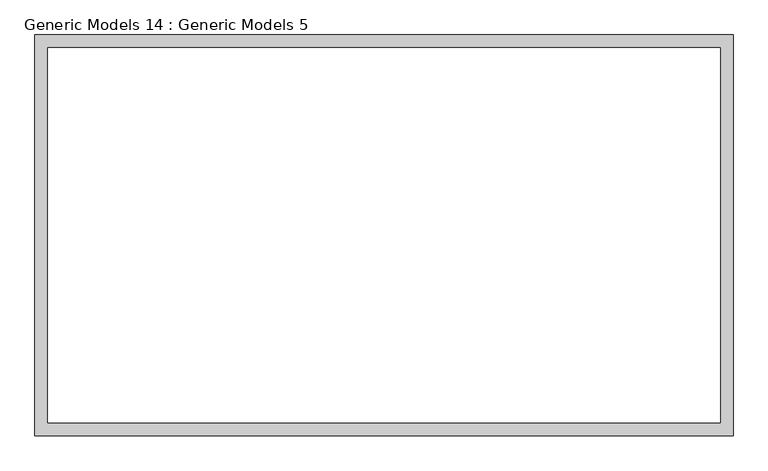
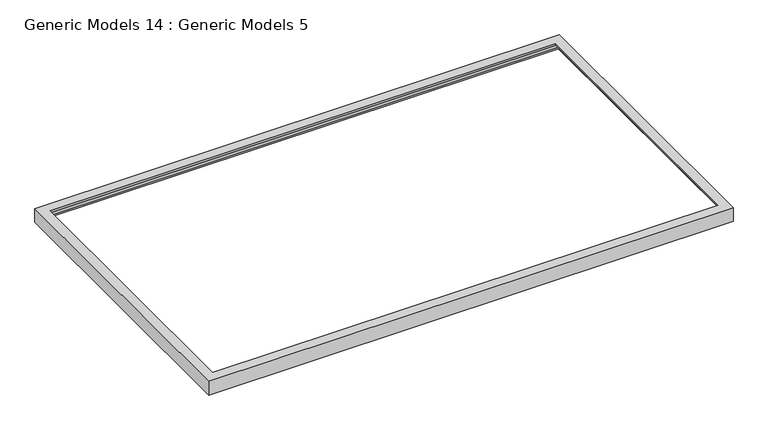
"""IFC4 building model written with IfcOpenShell, lengths in millimetres: proxy geometry, Generic Models 14 : Generic Models 5."""

import ifcopenshell
import ifcopenshell.guid

model = None  # the IFC model being written
_history = None  # IfcOwnerHistory: only IFC2X3 demands one
_inside = {}  # id of a spatial element -> (the spatial element, [elements in it])
_under = {}  # id of a project, library or spatial element -> (it, [spatial elements below it])
_declared = {}  # id of a project -> (the project, [libraries it declares])
_typed = {}  # id of a type object -> (the type object, [elements of that type])
_made_of = {}  # id of a material, layer set ... -> (it, [elements and type objects made of it])


def new_model(schema):
    """Start an empty IFC model of exactly this schema.

    Asked for "IFC4X3", IfcOpenShell would pick the latest addendum, in which some entities
    have other attributes; the version numbers below select the first issue.
    IFC2X3 requires an IfcOwnerHistory on every rooted entity: one is made here for all.
    """
    global model, _history
    if schema == "IFC4X3":
        model = ifcopenshell.file(schema_version=(4, 3, 0, 0))
    else:
        model = ifcopenshell.file(schema=schema)
    _inside.clear()
    _under.clear()
    _declared.clear()
    _typed.clear()
    _made_of.clear()
    _history = None
    if model.schema == "IFC2X3":
        org = make("IfcOrganization", Name="unknown")
        user = make(
            "IfcPersonAndOrganization",
            ThePerson=make("IfcPerson", FamilyName="unknown"),
            TheOrganization=org,
        )
        app = make(
            "IfcApplication",
            ApplicationDeveloper=org,
            Version="unknown",
            ApplicationFullName="unknown",
            ApplicationIdentifier="unknown",
        )
        _history = make(
            "IfcOwnerHistory",
            OwningUser=user,
            OwningApplication=app,
            ChangeAction="ADDED",
            CreationDate=0,
        )
    return model


def make(cls, **values):
    """One entity of the class cls with the attributes given. An attribute that is None is left unset."""
    return model.create_entity(
        cls, **{name: value for name, value in values.items() if value is not None}
    )


def rooted(cls, **values):
    """An entity with a GlobalId (a new one), such as an element, a storey or a relation."""
    return make(cls, GlobalId=ifcopenshell.guid.new(), OwnerHistory=_history, **values)


def si_unit(unit_type, name, prefix=None):
    """IfcSIUnit, for example si_unit("LENGTHUNIT", "METRE", prefix="MILLI")."""
    return make("IfcSIUnit", UnitType=unit_type, Prefix=prefix, Name=name)


def assignment(units):
    """IfcUnitAssignment: the units of a project."""
    return None if units is None else make("IfcUnitAssignment", Units=units)


def point(xyz):
    """IfcCartesianPoint."""
    return None if xyz is None else make("IfcCartesianPoint", Coordinates=xyz)


def direction(xyz):
    """IfcDirection."""
    return None if xyz is None else make("IfcDirection", DirectionRatios=xyz)


def frame(location, z_axis=None, x_axis=None):
    """IfcAxis2Placement3D, a coordinate frame: its origin and axes. An axis left out is left unset."""
    return make(
        "IfcAxis2Placement3D",
        Location=point(location),
        Axis=direction(z_axis),
        RefDirection=direction(x_axis),
    )


def origin():
    """The frame at (0, 0, 0) with its axes left unset."""
    return frame((0.0, 0.0, 0.0))


def place(relative_to, where):
    """IfcLocalPlacement: puts the frame where relative to a parent placement (None: the world)."""
    return make(
        "IfcLocalPlacement", PlacementRelTo=relative_to, RelativePlacement=where
    )


def context(
    kind, dimensions, precision=None, world=None, true_north=None, identifier=None
):
    """IfcGeometricRepresentationContext, for example the 3D "Model" context."""
    return make(
        "IfcGeometricRepresentationContext",
        ContextIdentifier=identifier,
        ContextType=kind,
        CoordinateSpaceDimension=dimensions,
        Precision=precision,
        WorldCoordinateSystem=world,
        TrueNorth=true_north,
    )


def project(units=None, contexts=None):
    """IfcProject with its units and contexts."""
    return rooted(
        "IfcProject",
        Name="project",
        RepresentationContexts=contexts,
        UnitsInContext=assignment(units),
    )


def spatial(cls, under=None, at=None, **own):
    """A site, building, storey or space (cls), placed at a placement, below another one or the project."""
    s = rooted(cls, ObjectPlacement=at, **own)
    if under is not None:
        _under.setdefault(under.id(), (under, []))[1].append(s)
    return s


def polyline(points):
    """IfcPolyline through the points."""
    return make("IfcPolyline", Points=[point(p) for p in points])


def ellipse_curve(where, semi_axis1, semi_axis2):
    """IfcEllipse in the frame where."""
    return make(
        "IfcEllipse", Position=where, SemiAxis1=semi_axis1, SemiAxis2=semi_axis2
    )


def shape(context_of_items, identifier, shape_type, items):
    """IfcShapeRepresentation: the items that make up one representation, for example the "Body"."""
    return make(
        "IfcShapeRepresentation",
        ContextOfItems=context_of_items,
        RepresentationIdentifier=identifier,
        RepresentationType=shape_type,
        Items=items,
    )


def source(mapping_origin, context_of_items, identifier, shape_type, items):
    """IfcRepresentationMap: a shape defined once, which mapped items show again and again."""
    return make(
        "IfcRepresentationMap",
        MappingOrigin=mapping_origin,
        MappedRepresentation=shape(context_of_items, identifier, shape_type, items),
    )


def transform(
    local_origin,
    x_axis=None,
    y_axis=None,
    z_axis=None,
    scale=None,
    scale2=None,
    scale3=None,
    uniform=True,
):
    """IfcCartesianTransformationOperator3D, or its non-uniform kind. x_axis, y_axis, z_axis: its Axis1, 2, 3."""
    if uniform:
        return make(
            "IfcCartesianTransformationOperator3D",
            Axis1=direction(x_axis),
            Axis2=direction(y_axis),
            LocalOrigin=point(local_origin),
            Scale=scale,
            Axis3=direction(z_axis),
        )
    return make(
        "IfcCartesianTransformationOperator3DnonUniform",
        Axis1=direction(x_axis),
        Axis2=direction(y_axis),
        LocalOrigin=point(local_origin),
        Scale=scale,
        Axis3=direction(z_axis),
        Scale2=scale2,
        Scale3=scale3,
    )


def mapped(mapping_source, mapping_target):
    """IfcMappedItem: shows the shape of a source again, moved by a transform."""
    return make(
        "IfcMappedItem", MappingSource=mapping_source, MappingTarget=mapping_target
    )


def made_of(thing, what):
    """Note that an element or type object is made of a material, layer set ...; save() writes the relation."""
    if what is not None:
        _made_of.setdefault(what.id(), (what, []))[1].append(thing)
    return thing


def element(
    cls,
    number,
    at=None,
    inside=None,
    cuts=None,
    type_object=None,
    material=None,
    context=None,
    identifier="Body",
    shape_type=None,
    held_by="IfcProductDefinitionShape",
    body=None,
    shapes=None,
    **own,
):
    """One element of the class cls, such as IfcWall. Its Tag is "e" and its number.

    at: its placement. inside: the storey or other place that contains it. cuts: it is an
    opening in that element (IfcRelVoidsElement). A single representation is given by context,
    identifier, shape_type and body (its items); several are given by shapes. held_by: the class
    of the entity that holds the representations. save() writes the other relations.
    """
    e = rooted(cls, Tag="e%d" % number, ObjectPlacement=at, **own)
    if body is not None:
        shapes = [shape(context, identifier, shape_type, body)]
    if shapes is not None:
        e.Representation = make(held_by, Representations=shapes)
    if inside is not None:
        _inside.setdefault(inside.id(), (inside, []))[1].append(e)
    if cuts is not None:
        rooted(
            "IfcRelVoidsElement", RelatingBuildingElement=cuts, RelatedOpeningElement=e
        )
    if type_object is not None:
        _typed.setdefault(type_object.id(), (type_object, []))[1].append(e)
    return made_of(e, material)


def aggregate(whole, parts):
    """IfcRelAggregates: a whole, such as a stair, and the parts it consists of."""
    return rooted("IfcRelAggregates", RelatingObject=whole, RelatedObjects=parts)


def save(model, path):
    """Write the relations noted so far, then the file.

    IfcRelAggregates (storeys below a building ...), IfcRelContainedInSpatialStructure (elements
    in a storey), IfcRelDefinesByType, IfcRelAssociatesMaterial and IfcRelDeclares: one each for
    every whole, place, type object, material and project.
    """
    for whole, parts in _under.values():
        aggregate(whole, parts)
    for where, things in _inside.values():
        rooted(
            "IfcRelContainedInSpatialStructure",
            RelatedElements=things,
            RelatingStructure=where,
        )
    for kind, things in _typed.values():
        rooted("IfcRelDefinesByType", RelatedObjects=things, RelatingType=kind)
    for what, things in _made_of.values():
        rooted("IfcRelAssociatesMaterial", RelatedObjects=things, RelatingMaterial=what)
    for by, libraries in _declared.values():
        rooted("IfcRelDeclares", RelatingContext=by, RelatedDefinitions=libraries)
    model.write(path)


def plane_surface(at):
    """IfcPlane: the flat surface through the origin of the frame at, square to its z axis."""
    return make("IfcPlane", Position=at)


def cylinder_surface(at, radius):
    """IfcCylindricalSurface: all points at the distance radius from the z axis of the frame at."""
    return make("IfcCylindricalSurface", Position=at, Radius=radius)


def revolved_surface(curve, axis_point, axis_direction):
    """IfcSurfaceOfRevolution: the curve turned about the line through axis_point along axis_direction."""
    return make(
        "IfcSurfaceOfRevolution",
        SweptCurve=make("IfcArbitraryOpenProfileDef", ProfileType="CURVE", Curve=curve),
        AxisPosition=make("IfcAxis1Placement", Location=point(axis_point), Axis=direction(axis_direction)),
    )


def advanced_brep(points, edges, surfaces, faces):
    """IfcAdvancedBrep: a solid bounded by faces that lie on surfaces and meet in shared edges.

    An edge is (start, end): straight between two places in points (the first is 0);
    or (start, end, curve); or (start, end, curve, False) where it runs against its curve.
    A face is (place in surfaces, loops), or (place, loops, False) where it looks against
    its surface's normal. A loop lists edges by number (the first is 1), with a minus sign
    where the edge is run from its end to its start. The first loop is the outer one.
    """
    corners = [point(p) for p in points]
    vertices = [make("IfcVertexPoint", VertexGeometry=c) for c in corners]
    made = []
    for start, end, *more in edges:
        made.append(
            make(
                "IfcEdgeCurve",
                EdgeStart=vertices[start],
                EdgeEnd=vertices[end],
                EdgeGeometry=more[0] if more else make("IfcPolyline", Points=[corners[start], corners[end]]),
                SameSense=more[1] if len(more) > 1 else True,
            )
        )
    hull = []
    for where, loops, *sense in faces:
        bounds = []
        for j, loop in enumerate(loops):
            ring = [make("IfcOrientedEdge", EdgeElement=made[abs(k) - 1], Orientation=k > 0) for k in loop]
            bounds.append(
                make(
                    "IfcFaceOuterBound" if j == 0 else "IfcFaceBound",
                    Bound=make("IfcEdgeLoop", EdgeList=ring),
                    Orientation=True,
                )
            )
        hull.append(make("IfcAdvancedFace", Bounds=bounds, FaceSurface=surfaces[where], SameSense=sense[0] if sense else True))
    return make("IfcAdvancedBrep", Outer=make("IfcClosedShell", CfsFaces=hull))


def generic_models_14_generic_models_5_a837a2eb(model_context):
    return source(origin(), model_context, "Body", "AdvancedBrep", [
        advanced_brep(
        [(9817.1, 7569.2, 8128.0), (9817.1, 7569.2, 8051.8), (7073.9, 7569.2, 8051.8), (7073.9, 7569.2, 8128.0), (9780.389385, 7532.489385, 8106.8659225), (9766.3, 7518.4, 8128.0), (7124.7, 7518.4, 8128.0), (7110.610615, 7532.489385, 8106.8659225), (9803.010615, 7555.110615, 8072.9340775), (7087.989385, 7555.110615, 8072.9340775), (7073.9, 5994.4, 8051.8), (7073.9, 5994.4, 8128.0), (7124.7, 6045.2, 8128.0), (7110.610615, 6031.110615, 8106.8659225), (7087.989385, 6008.489385, 8072.9340775), (9817.1, 5994.4, 8051.8), (9817.1, 5994.4, 8128.0), (9766.3, 6045.2, 8128.0), (9780.389385, 6031.110615, 8106.8659225), (9803.010615, 6008.489385, 8072.9340775)],
        [
            (0, 1),
            (1, 2),
            (2, 3),
            (3, 0),
            (4, 5, ellipse_curve(frame((9794.3683249, 7546.4683249, 8131.4487162), z_axis=(-0.7071067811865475, 0.7071067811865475, 0.0), x_axis=(0.7071067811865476, 0.7071067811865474, 0.0)), 39.993112, 28.2794007)),
            (5, 6),
            (6, 7, ellipse_curve(frame((7096.6316751, 7546.4683249, 8131.4487162), z_axis=(0.7071067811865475, 0.7071067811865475, 0.0), x_axis=(0.7071067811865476, -0.7071067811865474, 0.0)), 39.993112, 28.2794007)),
            (7, 4),
            (8, 4, ellipse_curve(frame((9757.9454802, 7510.0454802, 8067.3969868), z_axis=(0.7071067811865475, -0.7071067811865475, 0.0), x_axis=(-0.7071067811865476, -0.7071067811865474, 0.0)), 64.210992, 45.4040279)),
            (7, 9, ellipse_curve(frame((7133.0545198, 7510.0454802, 8067.3969868), z_axis=(-0.7071067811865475, -0.7071067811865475, 0.0), x_axis=(-0.7071067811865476, 0.7071067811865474, 0.0)), 64.210992, 45.4040279)),
            (9, 8),
            (1, 8, ellipse_curve(frame((9831.0789399, 7583.1789399, 8076.3827937), z_axis=(-0.7071067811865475, 0.7071067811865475, 0.0), x_axis=(0.7071067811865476, 0.7071067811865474, 0.0)), 39.993112, 28.2794007)),
            (9, 2, ellipse_curve(frame((7059.9210601, 7583.1789399, 8076.3827937), z_axis=(0.7071067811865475, 0.7071067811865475, 0.0), x_axis=(0.7071067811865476, -0.7071067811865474, 0.0)), 39.993112, 28.2794007)),
            (2, 10),
            (10, 11),
            (11, 3),
            (6, 12),
            (12, 13, ellipse_curve(frame((7096.6316751, 6017.1316751, 8131.4487162), z_axis=(-0.7071067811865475, 0.7071067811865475, 0.0), x_axis=(0.7071067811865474, 0.7071067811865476, 0.0)), 39.993112, 28.2794007)),
            (13, 7),
            (13, 14, ellipse_curve(frame((7133.0545198, 6053.5545198, 8067.3969868), z_axis=(0.7071067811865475, -0.7071067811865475, 0.0), x_axis=(-0.7071067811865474, -0.7071067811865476, 0.0)), 64.210992, 45.4040279)),
            (14, 9),
            (14, 10, ellipse_curve(frame((7059.9210601, 5980.4210601, 8076.3827937), z_axis=(-0.7071067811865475, 0.7071067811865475, 0.0), x_axis=(0.7071067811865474, 0.7071067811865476, 0.0)), 39.993112, 28.2794007)),
            (10, 15),
            (15, 16),
            (16, 11),
            (12, 17),
            (17, 18, ellipse_curve(frame((9794.3683249, 6017.1316751, 8131.4487162), z_axis=(-0.7071067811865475, -0.7071067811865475, 0.0), x_axis=(-0.7071067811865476, 0.7071067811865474, 0.0)), 39.993112, 28.2794007)),
            (18, 13),
            (18, 19, ellipse_curve(frame((9757.9454802, 6053.5545198, 8067.3969868), z_axis=(0.7071067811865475, 0.7071067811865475, 0.0), x_axis=(0.7071067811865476, -0.7071067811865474, 0.0)), 64.210992, 45.4040279)),
            (19, 14),
            (19, 15, ellipse_curve(frame((9831.0789399, 5980.4210601, 8076.3827937), z_axis=(-0.7071067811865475, -0.7071067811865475, 0.0), x_axis=(-0.7071067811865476, 0.7071067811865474, 0.0)), 39.993112, 28.2794007)),
            (15, 1),
            (0, 16),
            (5, 17),
            (4, 18),
            (8, 19),
        ],
        [
            plane_surface(frame((9817.1, 7569.2, 8051.8), z_axis=(0.0, 1.0, 0.0), x_axis=(-1.0, 0.0, 0.0))),
            cylinder_surface(frame((9817.1, 7546.4683249, 8131.4487162), z_axis=(1.0, 0.0, 0.0), x_axis=(0.0, 1.0, 0.0)), 28.2794007),
            revolved_surface(polyline([(7087.650491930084, 7555.4495081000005, 8067.3969868), (9803.349508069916, 7555.4495081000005, 8067.3969868)]), (9817.1, 7510.0454802, 8067.3969868), (-1.0, 0.0, 0.0)),
            cylinder_surface(frame((9817.1, 7583.1789399, 8076.3827937), z_axis=(1.0, 0.0, 0.0), x_axis=(0.0, 1.0, 0.0)), 28.2794007),
            plane_surface(frame((7073.9, 7569.2, 8051.8), z_axis=(-1.0, 0.0, 0.0), x_axis=(0.0, -1.0, 0.0))),
            cylinder_surface(frame((7096.6316751, 7569.2, 8131.4487162), z_axis=(0.0, 1.0, 0.0), x_axis=(-1.0, 0.0, 0.0)), 28.2794007),
            revolved_surface(polyline([(7087.6504919, 6008.150491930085, 8067.3969868), (7087.6504919, 7555.449508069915, 8067.3969868)]), (7133.0545198, 7569.2, 8067.3969868), (0.0, -1.0, 0.0)),
            cylinder_surface(frame((7059.9210601, 7569.2, 8076.3827937), z_axis=(0.0, 1.0, 0.0), x_axis=(-1.0, 0.0, 0.0)), 28.2794007),
            plane_surface(frame((7073.9, 5994.4, 8051.8), z_axis=(0.0, -1.0, 0.0), x_axis=(1.0, 0.0, 0.0))),
            cylinder_surface(frame((7073.9, 6017.1316751, 8131.4487162), z_axis=(-1.0, 0.0, 0.0), x_axis=(0.0, -1.0, 0.0)), 28.2794007),
            revolved_surface(polyline([(9803.349508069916, 6008.1504919, 8067.3969868), (7087.650491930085, 6008.1504919, 8067.3969868)]), (7073.9, 6053.5545198, 8067.3969868), (1.0, 0.0, 0.0)),
            cylinder_surface(frame((7073.9, 5980.4210601, 8076.3827937), z_axis=(-1.0, 0.0, 0.0), x_axis=(0.0, -1.0, 0.0)), 28.2794007),
            plane_surface(frame((9817.1, 5994.4, 8051.8), z_axis=(1.0, 0.0, 0.0), x_axis=(0.0, 1.0, 0.0))),
            plane_surface(frame((9817.1, 5994.4, 8128.0), z_axis=(0.0, 0.0, 1.0), x_axis=(0.0, 1.0, 0.0))),
            cylinder_surface(frame((9794.3683249, 5994.4, 8131.4487162), z_axis=(0.0, -1.0, 0.0), x_axis=(1.0, 0.0, 0.0)), 28.2794007),
            revolved_surface(polyline([(9803.3495081, 7555.449508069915, 8067.3969868), (9803.3495081, 6008.150491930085, 8067.3969868)]), (9757.9454802, 5994.4, 8067.3969868), (0.0, 1.0, 0.0)),
            cylinder_surface(frame((9831.0789399, 5994.4, 8076.3827937), z_axis=(0.0, -1.0, 0.0), x_axis=(1.0, 0.0, 0.0)), 28.2794007),
        ],
        [
            (0, [[1, 2, 3, 4]]),
            (1, [[5, 6, 7, 8]]),
            (2, [[9, -8, 10, 11]]),
            (3, [[12, -11, 13, -2]]),
            (4, [[-3, 14, 15, 16]]),
            (5, [[-7, 17, 18, 19]]),
            (6, [[-10, -19, 20, 21]]),
            (7, [[-13, -21, 22, -14]]),
            (8, [[-15, 23, 24, 25]]),
            (9, [[-18, 26, 27, 28]]),
            (10, [[-20, -28, 29, 30]]),
            (11, [[-22, -30, 31, -23]]),
            (12, [[-24, 32, -1, 33]]),
            (13, [[-16, -25, -33, -4], [34, -26, -17, -6]]),
            (14, [[-27, -34, -5, 35]]),
            (15, [[-29, -35, -9, 36]]),
            (16, [[-31, -36, -12, -32]]),
        ],
    ),
    ])


if __name__ == "__main__":
    model = new_model("IFC4")
    model_context = context("Model", 3, world=origin())
    ifc_project = project(units=[si_unit("LENGTHUNIT", "METRE", prefix="MILLI")], contexts=[model_context])
    site = spatial("IfcSite", under=ifc_project)
    building = spatial("IfcBuilding", under=site)
    placement = place(None, origin())
    generic_models_14_generic_models_5_shape = generic_models_14_generic_models_5_a837a2eb(model_context)
    element("IfcBuildingElementProxy", 1, Name="Generic Models 14 : Generic Models 5", ObjectType="Generic Models 14 : Generic Models 5", at=placement, inside=building, context=model_context, shape_type="MappedRepresentation", body=[
        mapped(generic_models_14_generic_models_5_shape, transform((0.0, 0.0, 0.0), x_axis=(1.0, 0.0, 0.0), y_axis=(0.0, 1.0, 0.0), z_axis=(0.0, 0.0, 1.0))),
    ])
    save(model, "model.ifc")
